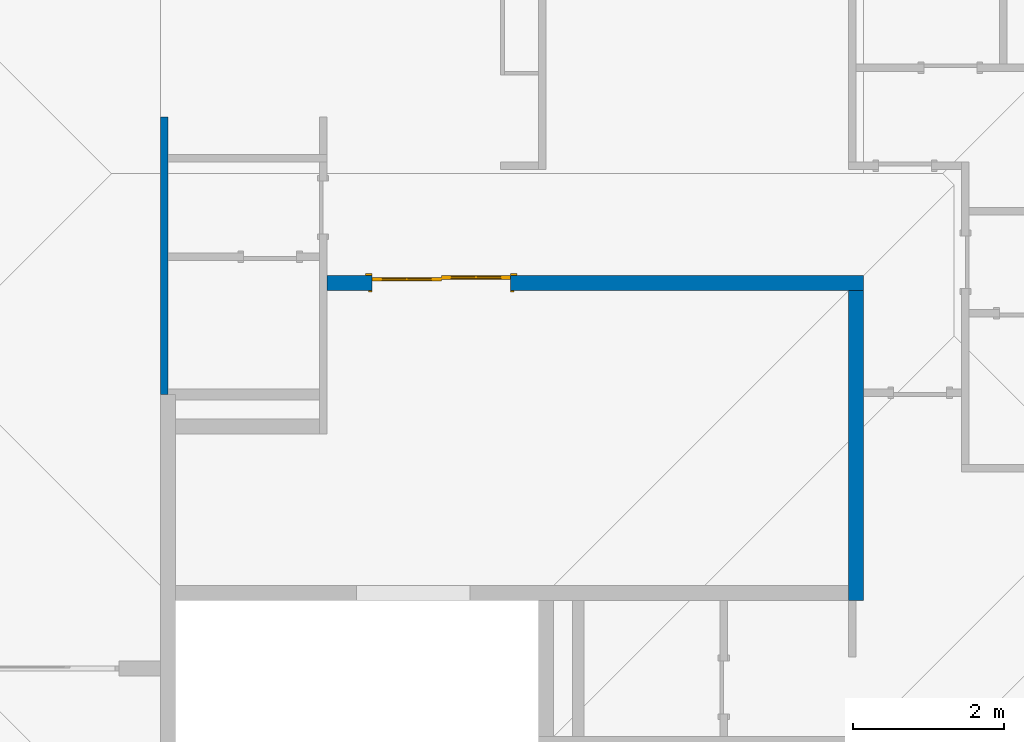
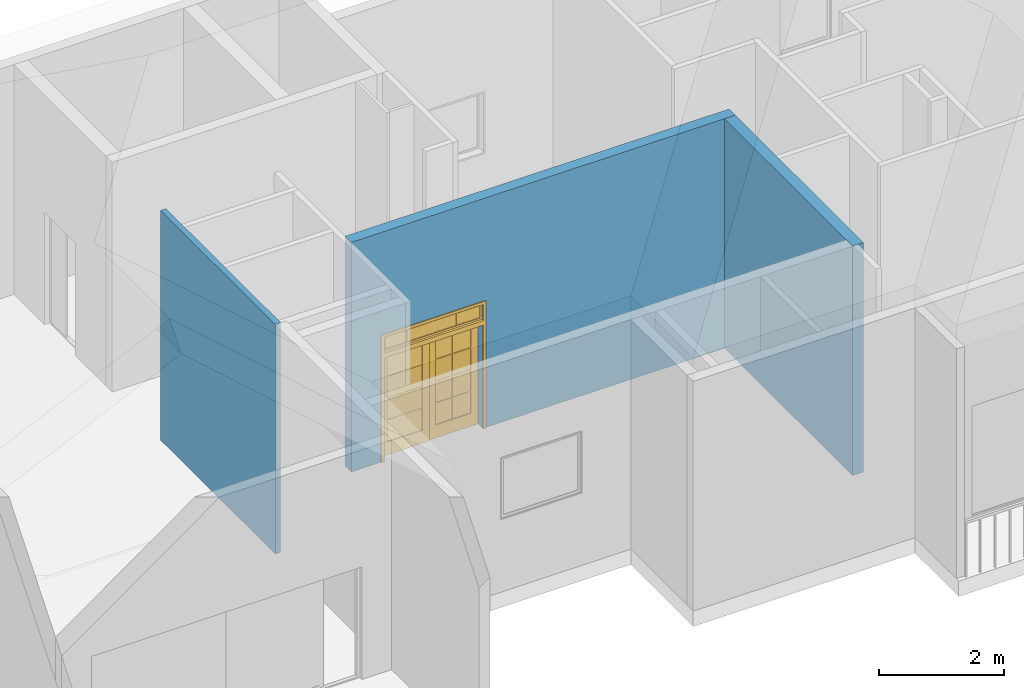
# One storey, part 3 of 8: 3 walls, 1 door, 1 opening.
"""IFC2X3 building model written with IfcOpenShell, lengths in metres."""

from ifc_helpers import new_model, entity, si_unit, converted_unit, derived_unit, direction, frame, frame_2d, origin, place, context, subcontext, project, spatial, rectangle, extrude, faceted_brep, source, transform, mapped, material, material_list, layer, layer_set, layer_usage, type_object, type_shapes, element, fill, save


model = new_model("IFC2X3")

# Units and contexts
model_context = context("Model", 3, precision=1e-05, world=origin(), true_north=direction((6.123031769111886e-17, 1.0)))
body_context = subcontext(model_context, "Body", "Model", "MODEL_VIEW")
ifc_project = project(units=[si_unit("LENGTHUNIT", "METRE"), si_unit("AREAUNIT", "SQUARE_METRE"), si_unit("VOLUMEUNIT", "CUBIC_METRE"), converted_unit("PLANEANGLEUNIT", "DEGREE", entity("IfcRatioMeasure", 0.017453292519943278), si_unit("PLANEANGLEUNIT", "RADIAN"), dimensions=[0, 0, 0, 0, 0, 0, 0]), si_unit("MASSUNIT", "GRAM", prefix="KILO"), derived_unit("MASSDENSITYUNIT", [(si_unit("MASSUNIT", "GRAM", prefix="KILO"), 1), (si_unit("LENGTHUNIT", "METRE"), -3)]), derived_unit("MOMENTOFINERTIAUNIT", [(si_unit("LENGTHUNIT", "METRE"), 4)]), si_unit("TIMEUNIT", "SECOND"), si_unit("FREQUENCYUNIT", "HERTZ"), si_unit("THERMODYNAMICTEMPERATUREUNIT", "DEGREE_CELSIUS"), derived_unit("THERMALTRANSMITTANCEUNIT", [(si_unit("MASSUNIT", "GRAM", prefix="KILO"), 1), (si_unit("THERMODYNAMICTEMPERATUREUNIT", "KELVIN"), -1), (si_unit("TIMEUNIT", "SECOND"), -3)]), derived_unit("VOLUMETRICFLOWRATEUNIT", [(si_unit("LENGTHUNIT", "METRE"), 3), (si_unit("TIMEUNIT", "SECOND"), -1)]), derived_unit("MASSFLOWRATEUNIT", [(si_unit("MASSUNIT", "GRAM", prefix="KILO"), 1), (si_unit("TIMEUNIT", "SECOND"), -1)]), derived_unit("ROTATIONALFREQUENCYUNIT", [(si_unit("TIMEUNIT", "SECOND"), -1)]), si_unit("ELECTRICCURRENTUNIT", "AMPERE"), si_unit("ELECTRICVOLTAGEUNIT", "VOLT"), si_unit("POWERUNIT", "WATT"), si_unit("FORCEUNIT", "NEWTON", prefix="KILO"), si_unit("ILLUMINANCEUNIT", "LUX"), si_unit("LUMINOUSFLUXUNIT", "LUMEN"), si_unit("LUMINOUSINTENSITYUNIT", "CANDELA"), derived_unit("USERDEFINED", [(si_unit("MASSUNIT", "GRAM", prefix="KILO"), -1), (si_unit("LENGTHUNIT", "METRE"), -2), (si_unit("TIMEUNIT", "SECOND"), 3), (si_unit("LUMINOUSFLUXUNIT", "LUMEN"), 1)]), derived_unit("SOUNDPOWERUNIT", [(si_unit("MASSUNIT", "GRAM", prefix="KILO"), 1), (si_unit("LENGTHUNIT", "METRE"), 2), (si_unit("TIMEUNIT", "SECOND"), -3)]), derived_unit("SOUNDPRESSUREUNIT", [(si_unit("MASSUNIT", "GRAM", prefix="KILO"), 1), (si_unit("LENGTHUNIT", "METRE"), -1), (si_unit("TIMEUNIT", "SECOND"), -2)]), derived_unit("LINEARVELOCITYUNIT", [(si_unit("LENGTHUNIT", "METRE"), 1), (si_unit("TIMEUNIT", "SECOND"), -1)]), si_unit("PRESSUREUNIT", "PASCAL"), derived_unit("USERDEFINED", [(si_unit("LENGTHUNIT", "METRE"), -2), (si_unit("MASSUNIT", "GRAM", prefix="KILO"), 1), (si_unit("TIMEUNIT", "SECOND"), -2)]), derived_unit("LINEARFORCEUNIT", [(si_unit("MASSUNIT", "GRAM", prefix="KILO"), 1), (si_unit("LENGTHUNIT", "METRE"), 1), (si_unit("TIMEUNIT", "SECOND"), -2), (si_unit("LENGTHUNIT", "METRE"), -1)]), derived_unit("PLANARFORCEUNIT", [(si_unit("MASSUNIT", "GRAM", prefix="KILO"), 1), (si_unit("LENGTHUNIT", "METRE"), 1), (si_unit("TIMEUNIT", "SECOND"), -2), (si_unit("LENGTHUNIT", "METRE"), -2)])], contexts=[model_context])

# Site, building, storey
site_placement = place(None, origin())
site = spatial("IfcSite", under=ifc_project, at=site_placement, Name="Default", CompositionType="ELEMENT")
building_placement = place(site_placement, origin())
building = spatial("IfcBuilding", under=site, at=building_placement, CompositionType="ELEMENT")
storey_placement = place(building_placement, frame((0.0, 0.0, 5.639999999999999)))
storey = spatial("IfcBuildingStorey", under=building, at=storey_placement, Name="F1", CompositionType="ELEMENT", Elevation=5.639999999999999)

# Wall, opening, door
ifc_material_1 = material(Name="Masonry - Concrete Block")
ifc_layer_1 = layer(ifc_material_1, 0.2)
ifc_layer_set_1 = layer_set([ifc_layer_1], Name="Basic Wall:CW 200")
ifc_layer_usage_1 = layer_usage(ifc_layer_set_1, "AXIS2", "NEGATIVE", 0.1)
wall_type_1 = type_object("IfcWallType", Name="Basic Wall:CW 200", PredefinedType="STANDARD", material=ifc_layer_set_1)
wall_1_placement = place(storey_placement, frame((15.10768321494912, -1.0973929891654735, 0.0)))
wall_1 = element("IfcWallStandardCase", 1, at=wall_1_placement, inside=storey, type_object=wall_type_1, material=ifc_layer_usage_1, Name="Basic Wall:CW 200", ObjectType="Basic Wall:CW 200", context=body_context, shape_type="SweptSolid", body=[
    extrude(rectangle(XDim=7.10000000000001, YDim=0.2, at=frame_2d((3.550000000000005, 4.85722573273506e-17), x_axis=(1.0, 0.0))), origin(), (0.0, 0.0, 1.0), 4.490000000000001),
])
opening_placement = place(wall_1_placement, frame((0.6000000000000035, -0.09999999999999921, 0.0)))
opening = element("IfcOpeningElement", 2, at=opening_placement, cuts=wall_1, Name="Double_8_lite_patio_door_5282:36x2\" x 80\" w/transom\":1", ObjectType="Opening", context=body_context, shape_type="SweptSolid", body=[
    extrude(rectangle(XDim=1.8287999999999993, YDim=2.4384000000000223, at=frame_2d((1.2192000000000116, 0.9144000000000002), x_axis=(0.0, -1.0))), frame((0.0, 0.0, 0.0), z_axis=(0.0, 1.0, 0.0), x_axis=(0.0, 0.0, 1.0)), (0.0, 0.0, 1.0), 0.2),
])
ifc_material_2 = material(Name="<Unnamed>")
ifc_material_3 = material(Name="Door - Panel")
ifc_material_4 = material(Name="Glazing - Window Glazing")
ifc_material_5 = material(Name="Finishes - Exterior - Trim")
ifc_material_6 = material(Name="Finishes - Interior - Trim")
ifc_material_list_1 = material_list([ifc_material_2, ifc_material_3, ifc_material_4, ifc_material_5, ifc_material_6])
ifc_material_list_2 = material_list([ifc_material_2, ifc_material_3, ifc_material_3, ifc_material_4, ifc_material_3, ifc_material_3, ifc_material_3, ifc_material_4, ifc_material_3, ifc_material_5, ifc_material_4, ifc_material_3, ifc_material_3, ifc_material_5, ifc_material_5, ifc_material_5, ifc_material_6])
door_style = type_object("IfcDoorStyle", Name="Double_8_lite_patio_door_5282:36x2\" x 80\" w/transom\"", ConstructionType="NOTDEFINED", OperationType="NOTDEFINED", ParameterTakesPrecedence=False, Sizeable=False, material=ifc_material_list_2)
shared_shape = source(origin(), body_context, "Body", "Brep", [
    faceted_brep([(1.8288000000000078, 0.2000000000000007, 2.0319999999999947), (1.8288000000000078, 0.0, 2.0319999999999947), (0.0, 0.0, 2.0319999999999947), (0.0, 0.2000000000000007, 2.0319999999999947), (1.8288000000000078, 0.2000000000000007, 2.120899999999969), (0.0, 0.2000000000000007, 2.120899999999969), (0.0, 0.0, 2.120899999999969), (1.8288000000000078, 0.0, 2.120899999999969)], [[[0, 1, 2, 3]], [[4, 5, 6, 7]], [[1, 0, 4, 7]], [[2, 1, 7, 6]], [[3, 2, 6, 5]], [[0, 3, 5, 4]]]),
    faceted_brep([(1.3842999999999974, 0.16667500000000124, 2.1589999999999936), (1.3588999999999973, 0.16667500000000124, 2.1589999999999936), (1.3588999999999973, 0.16667500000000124, 2.40030000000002), (1.3842999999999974, 0.16667500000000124, 2.40030000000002), (1.3842999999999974, 0.1349250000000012, 2.1589999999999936), (1.3842999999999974, 0.1349250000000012, 2.40030000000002), (1.3588999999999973, 0.1349250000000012, 2.40030000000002), (1.3588999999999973, 0.1349250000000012, 2.1589999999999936)], [[[0, 1, 2, 3]], [[4, 5, 6, 7]], [[1, 0, 4, 7]], [[2, 1, 7, 6]], [[3, 2, 6, 5]], [[0, 3, 5, 4]]]),
    faceted_brep([(0.46990000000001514, 0.16667500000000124, 2.15899999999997), (0.4445000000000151, 0.16667500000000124, 2.15899999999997), (0.4445000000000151, 0.16667500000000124, 2.4002999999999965), (0.46990000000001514, 0.16667500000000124, 2.4002999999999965), (0.46990000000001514, 0.1349250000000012, 2.15899999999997), (0.46990000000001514, 0.1349250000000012, 2.4002999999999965), (0.4445000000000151, 0.1349250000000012, 2.4002999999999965), (0.4445000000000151, 0.1349250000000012, 2.15899999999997)], [[[0, 1, 2, 3]], [[4, 5, 6, 7]], [[1, 0, 4, 7]], [[2, 1, 7, 6]], [[3, 2, 6, 5]], [[0, 3, 5, 4]]]),
    faceted_brep([(1.0159999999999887, 0.05872499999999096, 1.93040000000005), (1.7525999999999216, 0.05872499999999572, 1.93040000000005), (1.7525999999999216, 0.05872499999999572, 0.2540000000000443), (1.0160000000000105, 0.05872499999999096, 0.25400000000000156), (1.015999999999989, 0.03967499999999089, 1.93040000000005), (1.0160000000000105, 0.03967499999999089, 0.25400000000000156), (1.7525999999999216, 0.03967499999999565, 0.2540000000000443), (1.7525999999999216, 0.03967499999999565, 1.93040000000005)], [[[0, 1, 2, 3]], [[4, 5, 6, 7]], [[1, 0, 4, 7]], [[2, 1, 7, 6]], [[3, 2, 6, 5]], [[0, 3, 5, 4]]]),
    faceted_brep([(1.3842999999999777, 0.06507499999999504, 0.6794500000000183), (1.7017999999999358, 0.06507499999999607, 0.6794500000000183), (1.7017999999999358, 0.06507499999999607, 0.6540500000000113), (1.3842999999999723, 0.06507499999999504, 0.6540500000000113), (1.3842999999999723, 0.06507499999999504, 0.25400000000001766), (1.3588999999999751, 0.06507499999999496, 0.25400000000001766), (1.3588999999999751, 0.06507499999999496, 0.6540500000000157), (1.0414000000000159, 0.06507499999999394, 0.6540499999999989), (1.0414000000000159, 0.06507499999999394, 0.6794500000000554), (1.3588999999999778, 0.06507499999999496, 0.6794500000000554), (1.3588999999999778, 0.06507499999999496, 1.0795000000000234), (1.0414000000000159, 0.06507499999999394, 1.0795000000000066), (1.0414000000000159, 0.06507499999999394, 1.1049000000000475), (1.3588999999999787, 0.06507499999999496, 1.1049000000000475), (1.3588999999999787, 0.06507499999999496, 1.5049500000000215), (1.0414000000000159, 0.06507499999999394, 1.5049500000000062), (1.0414000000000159, 0.06507499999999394, 1.5303500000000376), (1.3588999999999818, 0.06507499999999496, 1.5303500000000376), (1.3588999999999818, 0.06507499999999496, 1.9304000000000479), (1.384299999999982, 0.06507499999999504, 1.9304000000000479), (1.384299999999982, 0.06507499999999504, 1.5303500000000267), (1.7017999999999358, 0.06507499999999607, 1.5303500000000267), (1.7017999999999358, 0.06507499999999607, 1.5049500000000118), (1.3842999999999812, 0.06507499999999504, 1.5049500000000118), (1.3842999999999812, 0.06507499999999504, 1.1049000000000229), (1.7017999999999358, 0.06507499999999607, 1.1049000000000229), (1.7017999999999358, 0.06507499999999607, 1.0795000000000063), (1.3842999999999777, 0.06507499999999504, 1.0795000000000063), (1.3842999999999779, 0.03332499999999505, 0.6794500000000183), (1.3842999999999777, 0.03332499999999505, 1.0795000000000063), (1.701799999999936, 0.03332499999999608, 1.0795000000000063), (1.701799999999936, 0.03332499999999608, 1.1049000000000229), (1.3842999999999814, 0.03332499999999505, 1.1049000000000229), (1.3842999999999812, 0.03332499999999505, 1.5049500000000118), (1.701799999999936, 0.03332499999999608, 1.5049500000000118), (1.701799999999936, 0.03332499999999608, 1.5303500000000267), (1.384299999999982, 0.03332499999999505, 1.5303500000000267), (1.384299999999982, 0.03332499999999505, 1.9304000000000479), (1.358899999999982, 0.03332499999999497, 1.9304000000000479), (1.358899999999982, 0.03332499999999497, 1.5303500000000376), (1.0414000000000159, 0.033324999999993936, 1.5303500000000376), (1.0414000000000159, 0.033324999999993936, 1.5049500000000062), (1.3588999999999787, 0.03332499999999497, 1.5049500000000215), (1.3588999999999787, 0.03332499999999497, 1.1049000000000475), (1.0414000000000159, 0.033324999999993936, 1.1049000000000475), (1.0414000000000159, 0.033324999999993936, 1.0795000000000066), (1.358899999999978, 0.03332499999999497, 1.0795000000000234), (1.358899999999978, 0.03332499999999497, 0.6794500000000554), (1.0414000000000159, 0.033324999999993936, 0.6794500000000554), (1.0414000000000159, 0.033324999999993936, 0.6540499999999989), (1.3588999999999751, 0.03332499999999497, 0.6540500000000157), (1.3588999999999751, 0.03332499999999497, 0.25400000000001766), (1.3842999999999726, 0.03332499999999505, 0.25400000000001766), (1.3842999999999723, 0.03332499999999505, 0.6540500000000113), (1.701799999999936, 0.03332499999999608, 0.6540500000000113), (1.701799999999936, 0.03332499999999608, 0.6794500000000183)], [[[0, 1, 2, 3, 4, 5, 6, 7, 8, 9, 10, 11, 12, 13, 14, 15, 16, 17, 18, 19, 20, 21, 22, 23, 24, 25, 26, 27]], [[28, 29, 30, 31, 32, 33, 34, 35, 36, 37, 38, 39, 40, 41, 42, 43, 44, 45, 46, 47, 48, 49, 50, 51, 52, 53, 54, 55]], [[1, 0, 28, 55]], [[2, 1, 55, 54]], [[3, 2, 54, 53]], [[4, 3, 53, 52]], [[5, 4, 52, 51]], [[6, 5, 51, 50]], [[7, 6, 50, 49]], [[8, 7, 49, 48]], [[9, 8, 48, 47]], [[10, 9, 47, 46]], [[11, 10, 46, 45]], [[12, 11, 45, 44]], [[13, 12, 44, 43]], [[14, 13, 43, 42]], [[15, 14, 42, 41]], [[16, 15, 41, 40]], [[17, 16, 40, 39]], [[18, 17, 39, 38]], [[19, 18, 38, 37]], [[20, 19, 37, 36]], [[21, 20, 36, 35]], [[22, 21, 35, 34]], [[23, 22, 34, 33]], [[24, 23, 33, 32]], [[25, 24, 32, 31]], [[26, 25, 31, 30]], [[27, 26, 30, 29]], [[0, 27, 29, 28]]]),
    faceted_brep([(0.9144000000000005, 0.07459999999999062, 2.032000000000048), (1.828800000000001, 0.07459999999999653, 2.032000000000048), (1.828800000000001, 0.07459999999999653, 0.0), (0.9144000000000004, 0.07459999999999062, 0.0), (1.0413999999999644, 0.07459999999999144, 1.9304000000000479), (1.0414000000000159, 0.07459999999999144, 0.25400000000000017), (1.701799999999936, 0.07459999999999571, 0.25400000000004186), (1.701799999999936, 0.07459999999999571, 1.9304000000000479), (0.9144000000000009, 0.023799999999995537, 2.032000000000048), (0.9144000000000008, 0.023799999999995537, 0.0), (1.828800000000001, 0.02380000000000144, 0.0), (1.828800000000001, 0.02380000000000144, 2.032000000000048), (1.0413999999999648, 0.02379999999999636, 1.9304000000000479), (1.7017999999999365, 0.023800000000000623, 1.9304000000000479), (1.7017999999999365, 0.023800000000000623, 0.25400000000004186), (1.041400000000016, 0.02379999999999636, 0.25400000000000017)], [[[0, 1, 2, 3], [4, 5, 6, 7]], [[8, 9, 10, 11], [12, 13, 14, 15]], [[1, 0, 8, 11]], [[2, 1, 11, 10]], [[3, 2, 10, 9]], [[0, 3, 9, 8]], [[5, 4, 12, 15]], [[6, 5, 15, 14]], [[7, 6, 14, 13]], [[4, 7, 13, 12]]]),
    faceted_brep([(0.44450000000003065, 0.04127499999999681, 0.6794500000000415), (0.44450000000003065, 0.04127499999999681, 1.079499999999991), (0.12700000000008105, 0.041274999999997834, 1.079499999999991), (0.12700000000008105, 0.041274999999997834, 1.104900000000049), (0.44450000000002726, 0.04127499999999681, 1.104900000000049), (0.44450000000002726, 0.04127499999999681, 1.5049499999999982), (0.12700000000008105, 0.041274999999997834, 1.5049499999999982), (0.12700000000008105, 0.041274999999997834, 1.5303500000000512), (0.4445000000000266, 0.04127499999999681, 1.5303500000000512), (0.4445000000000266, 0.04127499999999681, 1.9304000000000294), (0.46990000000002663, 0.041274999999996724, 1.9304000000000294), (0.46990000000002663, 0.041274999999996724, 1.5303500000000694), (0.7873999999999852, 0.041274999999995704, 1.5303500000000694), (0.7873999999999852, 0.041274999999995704, 1.50495000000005), (0.46990000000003, 0.041274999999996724, 1.5049500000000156), (0.46990000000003, 0.041274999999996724, 1.1049000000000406), (0.7873999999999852, 0.041274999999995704, 1.1049000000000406), (0.7873999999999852, 0.041274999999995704, 1.07950000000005), (0.4699000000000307, 0.041274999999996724, 1.079500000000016), (0.4699000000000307, 0.041274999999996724, 0.6794500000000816), (0.7873999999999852, 0.041274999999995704, 0.6794500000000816), (0.7873999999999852, 0.041274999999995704, 0.6540500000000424), (0.4699000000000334, 0.041274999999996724, 0.6540500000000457), (0.4699000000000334, 0.041274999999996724, 0.2540000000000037), (0.4445000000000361, 0.04127499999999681, 0.2540000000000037), (0.4445000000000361, 0.04127499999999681, 0.6540499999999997), (0.12700000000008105, 0.041274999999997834, 0.6540499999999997), (0.12700000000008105, 0.041274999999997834, 0.6794500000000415), (0.44450000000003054, 0.009524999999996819, 0.6794500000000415), (0.1270000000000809, 0.009524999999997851, 0.6794500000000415), (0.1270000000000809, 0.009524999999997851, 0.6540499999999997), (0.4445000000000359, 0.009524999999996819, 0.6540499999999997), (0.4445000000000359, 0.009524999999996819, 0.2540000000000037), (0.4699000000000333, 0.009524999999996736, 0.2540000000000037), (0.4699000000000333, 0.009524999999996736, 0.6540500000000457), (0.7873999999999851, 0.009524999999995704, 0.6540500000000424), (0.7873999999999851, 0.009524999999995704, 0.6794500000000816), (0.46990000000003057, 0.009524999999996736, 0.6794500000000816), (0.46990000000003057, 0.009524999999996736, 1.079500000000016), (0.7873999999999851, 0.009524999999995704, 1.07950000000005), (0.7873999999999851, 0.009524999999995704, 1.1049000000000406), (0.4699000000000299, 0.009524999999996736, 1.1049000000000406), (0.4699000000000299, 0.009524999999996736, 1.5049500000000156), (0.7873999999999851, 0.009524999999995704, 1.50495000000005), (0.7873999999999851, 0.009524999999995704, 1.5303500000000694), (0.4699000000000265, 0.009524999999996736, 1.5303500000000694), (0.4699000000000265, 0.009524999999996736, 1.9304000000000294), (0.4445000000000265, 0.009524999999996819, 1.9304000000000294), (0.4445000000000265, 0.009524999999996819, 1.5303500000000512), (0.1270000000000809, 0.009524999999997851, 1.5303500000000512), (0.1270000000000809, 0.009524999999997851, 1.5049499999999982), (0.44450000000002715, 0.009524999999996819, 1.5049499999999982), (0.44450000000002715, 0.009524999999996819, 1.104900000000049), (0.1270000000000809, 0.009524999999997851, 1.104900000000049), (0.1270000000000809, 0.009524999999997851, 1.079499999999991), (0.44450000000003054, 0.009524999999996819, 1.079499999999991)], [[[0, 1, 2, 3, 4, 5, 6, 7, 8, 9, 10, 11, 12, 13, 14, 15, 16, 17, 18, 19, 20, 21, 22, 23, 24, 25, 26, 27]], [[28, 29, 30, 31, 32, 33, 34, 35, 36, 37, 38, 39, 40, 41, 42, 43, 44, 45, 46, 47, 48, 49, 50, 51, 52, 53, 54, 55]], [[1, 0, 28, 55]], [[2, 1, 55, 54]], [[3, 2, 54, 53]], [[4, 3, 53, 52]], [[5, 4, 52, 51]], [[6, 5, 51, 50]], [[7, 6, 50, 49]], [[8, 7, 49, 48]], [[9, 8, 48, 47]], [[10, 9, 47, 46]], [[11, 10, 46, 45]], [[12, 11, 45, 44]], [[13, 12, 44, 43]], [[14, 13, 43, 42]], [[15, 14, 42, 41]], [[16, 15, 41, 40]], [[17, 16, 40, 39]], [[18, 17, 39, 38]], [[19, 18, 38, 37]], [[20, 19, 37, 36]], [[21, 20, 36, 35]], [[22, 21, 35, 34]], [[23, 22, 34, 33]], [[24, 23, 33, 32]], [[25, 24, 32, 31]], [[26, 25, 31, 30]], [[27, 26, 30, 29]], [[0, 27, 29, 28]]]),
    faceted_brep([(0.8128000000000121, 0.034924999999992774, 1.9304000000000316), (0.8127999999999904, 0.034924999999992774, 0.25400000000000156), (0.0762000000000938, 0.034924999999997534, 0.2540000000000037), (0.0762000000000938, 0.034924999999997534, 1.9304000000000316), (0.812800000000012, 0.015874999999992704, 1.9304000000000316), (0.07620000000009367, 0.015874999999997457, 1.9304000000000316), (0.0762000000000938, 0.015874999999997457, 0.2540000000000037), (0.8127999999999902, 0.015874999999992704, 0.25400000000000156)], [[[0, 1, 2, 3]], [[4, 5, 6, 7]], [[1, 0, 4, 7]], [[2, 1, 7, 6]], [[3, 2, 6, 5]], [[0, 3, 5, 4]]]),
    faceted_brep([(0.9143999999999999, 0.050799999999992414, 2.032000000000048), (0.9144000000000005, 0.050799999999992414, 0.0), (0.0, 0.05079999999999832, 0.0), (0.0, 0.05079999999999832, 2.032000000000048), (0.7874000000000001, 0.05079999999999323, 1.9304000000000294), (0.1270000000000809, 0.05079999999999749, 1.9304000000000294), (0.1270000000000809, 0.05079999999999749, 0.2540000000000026), (0.7873999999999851, 0.05079999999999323, 0.25400000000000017), (0.9143999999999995, 0.0, 2.032000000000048), (0.0, 0.0, 2.032000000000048), (0.0, 0.0, 0.0), (0.9144000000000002, 0.0, 0.0), (0.7873999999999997, 0.0, 1.9304000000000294), (0.7873999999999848, 0.0, 0.25400000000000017), (0.1270000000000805, 0.0, 0.2540000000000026), (0.1270000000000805, 0.0, 1.9304000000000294)], [[[0, 1, 2, 3], [4, 5, 6, 7]], [[8, 9, 10, 11], [12, 13, 14, 15]], [[1, 0, 8, 11]], [[2, 1, 11, 10]], [[3, 2, 10, 9]], [[0, 3, 9, 8]], [[5, 4, 12, 15]], [[6, 5, 15, 14]], [[7, 6, 14, 13]], [[4, 7, 13, 12]]]),
    faceted_brep([(-0.08889999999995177, 0.0, 2.438400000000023), (-0.0888999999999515, 0.0, 2.5781000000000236), (-0.11429999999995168, 0.0, 2.603500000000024), (-0.11429999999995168, 0.0, 2.6162000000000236), (1.943100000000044, 0.0, 2.6162000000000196), (1.943100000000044, 0.0, 2.60350000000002), (1.9177000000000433, 0.0, 2.5781000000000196), (1.9177000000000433, 0.0, 2.438400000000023), (1.9177000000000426, -0.025400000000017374, 2.4384000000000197), (-0.0888999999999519, -0.02540000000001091, 2.438400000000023), (-0.08889999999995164, -0.02540000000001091, 2.5781000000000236), (-0.11429999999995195, -0.05080000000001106, 2.603500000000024), (-0.11429999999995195, -0.05080000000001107, 2.6162000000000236), (1.9431000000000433, -0.05080000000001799, 2.6162000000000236), (1.9177000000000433, -0.025400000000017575, 2.5781000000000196), (1.9431000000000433, -0.05080000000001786, 2.60350000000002)], [[[0, 1, 2, 3, 4, 5, 6, 7]], [[0, 7, 8, 9]], [[1, 0, 9, 10]], [[2, 1, 10, 11]], [[3, 2, 11, 12]], [[4, 3, 12, 13]], [[10, 9, 8, 14]], [[11, 10, 14, 15]], [[12, 11, 15, 13]], [[14, 8, 7, 6]], [[15, 14, 6, 5]], [[13, 15, 5, 4]]]),
    faceted_brep([(1.7907000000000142, 0.14127500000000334, 2.4003000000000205), (0.03276657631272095, 0.14127500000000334, 2.4003000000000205), (0.03276657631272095, 0.14127500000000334, 2.1589999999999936), (1.7907000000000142, 0.14127500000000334, 2.1589999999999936), (1.7907000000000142, 0.1603250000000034, 2.4003000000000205), (1.7907000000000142, 0.1603250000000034, 2.1589999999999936), (0.03276657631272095, 0.1603250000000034, 2.1589999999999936), (0.03276657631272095, 0.1603250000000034, 2.4003000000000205)], [[[0, 1, 2, 3]], [[4, 5, 6, 7]], [[1, 0, 4, 7]], [[2, 1, 7, 6]], [[3, 2, 6, 5]], [[0, 3, 5, 4]]]),
    faceted_brep([(1.8341334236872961, 0.1254000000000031, 2.4383999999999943), (0.0, 0.1254000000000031, 2.4383999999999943), (0.0, 0.1254000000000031, 2.1208999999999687), (1.8341334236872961, 0.1254000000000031, 2.1208999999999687), (1.7907000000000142, 0.1254000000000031, 2.400299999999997), (1.7907000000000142, 0.1254000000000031, 2.158999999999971), (0.03810000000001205, 0.1254000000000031, 2.158999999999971), (0.038100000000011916, 0.1254000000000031, 2.400299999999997), (1.8341334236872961, 0.17619999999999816, 2.4383999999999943), (1.8341334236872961, 0.17619999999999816, 2.1208999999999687), (0.0, 0.17619999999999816, 2.1208999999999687), (0.0, 0.17619999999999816, 2.4383999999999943), (1.7907000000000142, 0.17619999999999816, 2.400299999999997), (0.038100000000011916, 0.17619999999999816, 2.400299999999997), (0.03810000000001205, 0.17619999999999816, 2.158999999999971), (1.7907000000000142, 0.17619999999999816, 2.158999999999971)], [[[0, 1, 2, 3], [4, 5, 6, 7]], [[8, 9, 10, 11], [12, 13, 14, 15]], [[1, 0, 8, 11]], [[2, 1, 11, 10]], [[3, 2, 10, 9]], [[0, 3, 9, 8]], [[5, 4, 12, 15]], [[6, 5, 15, 14]], [[7, 6, 14, 13]], [[4, 7, 13, 12]]]),
    faceted_brep([(0.9270999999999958, 0.16667500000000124, 2.158999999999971), (0.9016999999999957, 0.16667500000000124, 2.158999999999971), (0.9016999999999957, 0.16667500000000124, 2.4002999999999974), (0.9270999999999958, 0.16667500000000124, 2.4002999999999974), (0.9270999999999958, 0.1349250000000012, 2.158999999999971), (0.9270999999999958, 0.1349250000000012, 2.4002999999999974), (0.9016999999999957, 0.1349250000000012, 2.4002999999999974), (0.9016999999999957, 0.1349250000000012, 2.158999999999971)], [[[0, 1, 2, 3]], [[4, 5, 6, 7]], [[1, 0, 4, 7]], [[2, 1, 7, 6]], [[3, 2, 6, 5]], [[0, 3, 5, 4]]]),
    faceted_brep([(1.828800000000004, 0.0, 2.1208999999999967), (1.828800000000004, -0.02539999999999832, 2.1208999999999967), (1.828800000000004, -0.02539999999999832, 2.0320000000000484), (1.828800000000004, 0.0, 2.0320000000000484), (0.0, 0.0, 2.1209000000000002), (0.0, 0.0, 2.0320000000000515), (0.0, -0.02539999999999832, 2.0320000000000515), (0.0, -0.02539999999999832, 2.1209000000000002)], [[[0, 1, 2, 3]], [[4, 5, 6, 7]], [[1, 0, 4, 7]], [[2, 1, 7, 6]], [[3, 2, 6, 5]], [[0, 3, 5, 4]]]),
    faceted_brep([(1.8288000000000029, 0.0, 0.0), (1.9177000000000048, 0.0, 0.0), (1.9177000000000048, -0.025399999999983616, 0.0), (1.8288000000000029, -0.025399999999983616, 0.0), (1.8288000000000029, 0.0, 2.4384000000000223), (1.9177000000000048, 0.0, 2.4384000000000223), (1.9177000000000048, -0.025399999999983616, 2.4384000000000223), (1.8288000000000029, -0.025399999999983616, 2.4384000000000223)], [[[0, 1, 2, 3]], [[4, 5, 1, 0]], [[5, 6, 2, 1]], [[6, 7, 3, 2]], [[7, 4, 0, 3]], [[4, 7, 6, 5]]]),
    faceted_brep([(-0.08889999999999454, 0.0, 0.0), (0.0, 0.0, 0.0), (0.0, -0.025399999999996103, 0.0), (-0.08889999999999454, -0.025399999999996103, 0.0), (-0.08889999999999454, 0.0, 2.4384000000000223), (0.0, 0.0, 2.4384000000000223), (0.0, -0.025399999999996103, 2.4384000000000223), (-0.08889999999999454, -0.025399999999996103, 2.4384000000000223)], [[[0, 1, 2, 3]], [[4, 5, 1, 0]], [[5, 6, 2, 1]], [[6, 7, 3, 2]], [[7, 4, 0, 3]], [[4, 7, 6, 5]]]),
    faceted_brep([(0.0, 0.2190500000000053, 0.0), (0.0, 0.20000000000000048, 0.0), (-0.050799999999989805, 0.20000000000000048, 0.0), (-0.050799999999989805, 0.2190500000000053, 0.0), (0.0, 0.2190500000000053, 2.4383999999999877), (0.0, 0.20000000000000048, 2.4384000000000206), (0.0, 0.20000000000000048, 2.1208999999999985), (0.0, 0.2190500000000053, 2.1208999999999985), (0.0, 0.20000000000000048, 2.0320000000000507), (1.8288000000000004, 0.20000000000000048, 2.0320000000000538), (1.8288000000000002, 0.19999999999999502, 0.0), (1.8796000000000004, 0.19999999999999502, 0.0), (1.879599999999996, 0.19999999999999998, 2.4892000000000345), (-0.050799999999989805, 0.19999999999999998, 2.4892000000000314), (1.8288000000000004, 0.20000000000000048, 2.4384000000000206), (1.8288000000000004, 0.20000000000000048, 2.120900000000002), (-0.050799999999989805, 0.21905000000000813, 2.4892000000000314), (1.879599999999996, 0.21905000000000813, 2.4892000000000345), (1.879600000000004, 0.21905000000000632, 0.0), (1.8288000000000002, 0.21905000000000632, 0.0), (1.8288000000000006, 0.21905000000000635, 2.0320000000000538), (0.0, 0.2190500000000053, 2.0320000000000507), (1.8288000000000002, 0.21905000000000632, 2.120900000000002), (1.8288000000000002, 0.21905000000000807, 2.4383999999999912)], [[[0, 1, 2, 3]], [[4, 5, 6, 7]], [[2, 1, 8, 9, 10, 11, 12, 13], [14, 15, 6, 5]], [[3, 2, 13, 16]], [[0, 3, 16, 17, 18, 19, 20, 21], [4, 7, 22, 23]], [[18, 17, 12, 11]], [[19, 18, 11, 10]], [[14, 23, 22, 15]], [[5, 4, 23, 14]], [[16, 13, 12, 17]], [[9, 8, 21, 20]], [[6, 15, 22, 7]], [[19, 10, 9, 20]], [[1, 0, 21, 8]]]),
])
type_shapes(door_style, [shared_shape])
door_placement = place(opening_placement, frame((1.8287999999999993, 0.1999999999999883, 0.0), z_axis=(0.0, 0.0, 1.0), x_axis=(-1.0, 0.0, 0.0)))
door = element("IfcDoor", 3, at=door_placement, inside=storey, type_object=door_style, material=ifc_material_list_1, Name="Double_8_lite_patio_door_5282:36x2\" x 80\" w/transom\"", ObjectType="Double_8_lite_patio_door_5282:36x2\" x 80\" w/transom\"", OverallHeight=2.4384000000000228, OverallWidth=1.8288000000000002, context=body_context, shape_type="MappedRepresentation", body=[
    mapped(shared_shape, transform((0.0, 0.0, 0.0), scale=1.0)),
])
fill(opening, door)

# Walls
ifc_layer_usage_2 = layer_usage(ifc_layer_set_1, "AXIS2", "NEGATIVE", 0.1)
wall_2_placement = place(storey_placement, frame((22.10768321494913, -1.197392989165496, 0.0), z_axis=(0.0, 0.0, 1.0), x_axis=(0.0, -1.0, 0.0)))
element("IfcWallStandardCase", 4, at=wall_2_placement, inside=storey, type_object=wall_type_1, material=ifc_layer_usage_2, Name="Basic Wall:CW 200", ObjectType="Basic Wall:CW 200", context=body_context, shape_type="SweptSolid", body=[
    extrude(rectangle(XDim=4.102899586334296, YDim=0.19999999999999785, at=frame_2d((2.051449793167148, 1.1102230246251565e-16), x_axis=(-1.0, 0.0))), origin(), (0.0, 0.0, 1.0), 4.490000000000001),
])
ifc_layer_2 = layer(ifc_material_1, 0.1)
ifc_layer_set_2 = layer_set([ifc_layer_2], Name="Basic Wall:CW 100")
ifc_layer_usage_3 = layer_usage(ifc_layer_set_2, "AXIS2", "NEGATIVE", 0.05)
wall_type_2 = type_object("IfcWallType", Name="Basic Wall:CW 100", PredefinedType="STANDARD", material=ifc_layer_set_2)
wall_3_placement = place(storey_placement, frame((12.957683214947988, -2.5723929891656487, 0.0), z_axis=(0.0, 0.0, 1.0), x_axis=(0.0, 1.0, 0.0)))
element("IfcWallStandardCase", 5, at=wall_3_placement, inside=storey, type_object=wall_type_2, material=ifc_layer_usage_3, Name="Basic Wall:CW 100", ObjectType="Basic Wall:CW 100", context=body_context, shape_type="SweptSolid", body=[
    extrude(rectangle(XDim=3.6750000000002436, YDim=0.09999999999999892, at=frame_2d((1.8375000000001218, 1.0755285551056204e-16), x_axis=(-1.0, 0.0))), origin(), (0.0, 0.0, 1.0), 4.490000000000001),
])

save(model, "model.ifc")
